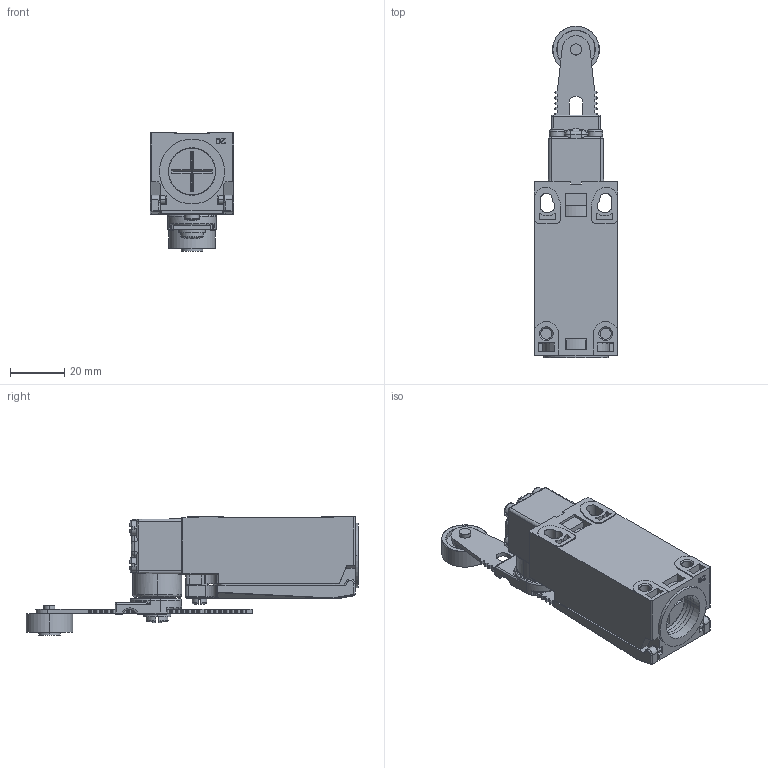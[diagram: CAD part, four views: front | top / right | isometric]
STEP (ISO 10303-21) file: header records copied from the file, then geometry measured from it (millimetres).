
FILE_DESCRIPTION(/* description */ (''),/* implementation_level */ '2;1');
FILE_NAME(/* name */ 'ALS3-P...C4.stp',/* time_stamp */ '2022-04-21T15:27:25+08:00',/* author */ (''),/* organization */ (''),/* preprocessor_version */ 'ST-DEVELOPER v16.7',/* originating_system */ 'SIEMENS PLM Software NX 12.0',/* authorisation */ '');
FILE_SCHEMA (('AUTOMOTIVE_DESIGN { 1 0 10303 214 3 1 1 1 }'));
Products named in the file (14): TZ-8轮子铆钉; TZ-8塑料轮; 412G可调推杆; M5X13螺钉; M3X22螺钉; 4122摆杆套; 4120头部基座; M3X9; 20210810COVER_BODY; 基座; 尾塞; 412G轮子组件; C4N-4122G头部组件; ALS3-P...C4_stp
Assembly tree (16 placements, depth 4):
  ALS3-P...C4_stp
    尾塞
    基座
    20210810COVER_BODY
    M3X9
    C4N-4122G头部组件
      4120头部基座
      4122摆杆套
      M3X22螺钉  x4
      412G轮子组件
        412G可调推杆
        TZ-8塑料轮
        TZ-8轮子铆钉
      M5X13螺钉
Bounding box: 31 x 122.67 x 43.75 mm (x, y, z)
Volume: 31660.7 mm3; surface area: 34518.5 mm2
Topology: 14 solids, 14 shells, 2076 faces, 5880 edges, 3866 vertices
Faces by surface type: plane 1078, cylinder 701, cone 123, torus 80, bspline 56, sphere 38
Entity records: 70719 total; most frequent: CARTESIAN_POINT 18416, ORIENTED_EDGE 11194, DIRECTION 10747, EDGE_CURVE 5597, AXIS2_PLACEMENT_3D 3735, VERTEX_POINT 3704, LINE 3277, VECTOR 3277
